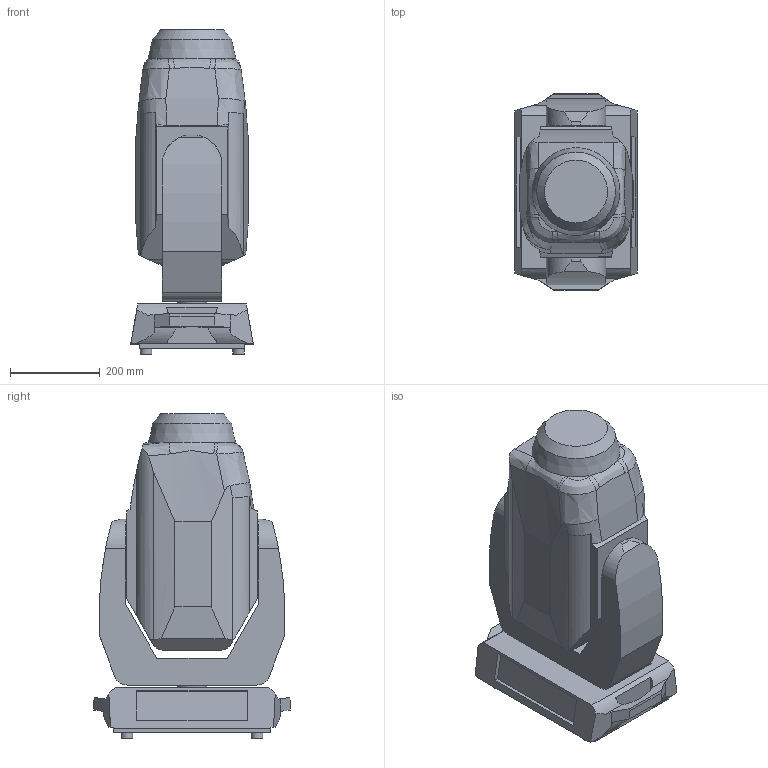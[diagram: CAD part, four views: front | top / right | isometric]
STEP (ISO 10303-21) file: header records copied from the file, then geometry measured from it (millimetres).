
FILE_DESCRIPTION(/* description */ ('Unknown'),/* implementation_level */ '2;1');
FILE_NAME(/* name */ '3D_RobinMMXSpot',/* time_stamp */ '2020-12-16T14:03:37+01:00',/* author */ ('Ing.Rostislav HĂˇba'),/* organization */ ('ROBE lighting'),/* preprocessor_version */ 'ST-DEVELOPER v16.7',/* originating_system */ 'Solid Edge',/* authorisation */ 'Unknown');
FILE_SCHEMA (('AUTOMOTIVE_DESIGN {1 0 10303 214 3 1 1}'));
Length unit declared in the file: millimetre
Products named in the file (4): RobinMMXSpot; Robin300Spot_Základna; MMX_Hlava; MMX_Rameno
Assembly tree (3 placements, depth 2):
  RobinMMXSpot
    Robin300Spot_Základna
    MMX_Hlava
    MMX_Rameno
Bounding box: 273.35 x 437.25 x 722 mm (x, y, z)
Volume: 45634485 mm3; surface area: 1259043 mm2
Topology: 3 solids, 3 shells, 181 faces, 459 edges, 306 vertices
Faces by surface type: plane 106, cylinder 55, bspline 15, cone 5
Full cylindrical faces by diameter (mm): 3.634 x1, 4 x3, 10 x8, 26 x4, 40 x4, 44.874 x1, 45.497 x1, 65.661 x1
Entity records: 5826 total; most frequent: CARTESIAN_POINT 1586, ORIENTED_EDGE 844, DIRECTION 822, EDGE_CURVE 422, AXIS2_PLACEMENT_3D 298, VERTEX_POINT 294, EDGE_LOOP 232, FACE_BOUND 232
